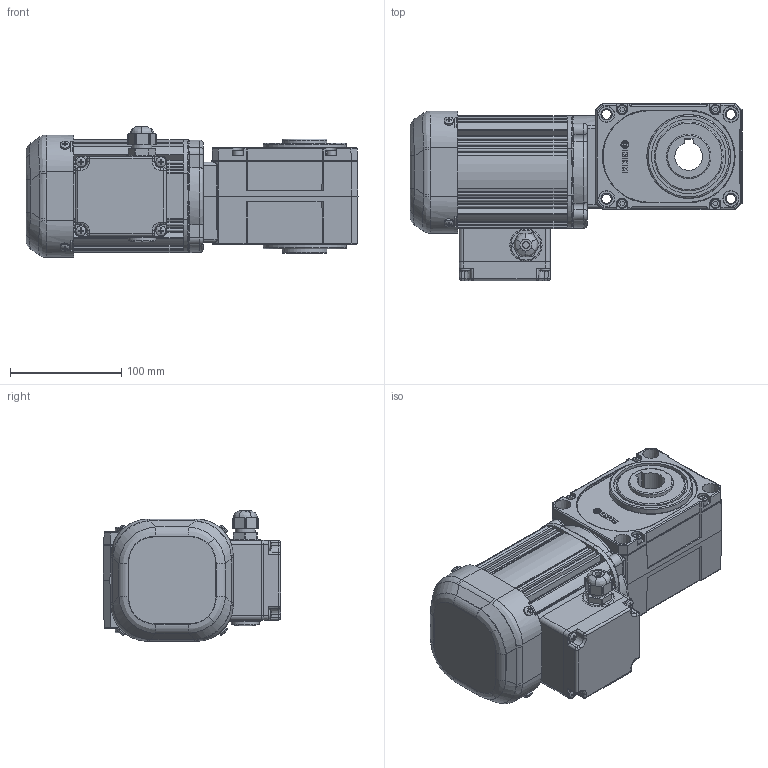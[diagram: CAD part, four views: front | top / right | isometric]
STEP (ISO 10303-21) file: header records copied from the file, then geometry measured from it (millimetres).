
FILE_DESCRIPTION (( 'STEP AP214' ), '1' );
FILE_NAME ('DSY25B-(40~60)N020-¤±.STEP', '2025-01-17T05:34:41', ( '' ), ( '' ), 'SwSTEP 2.0', 'SolidWorks 2024', '' );
FILE_SCHEMA (( 'AUTOMOTIVE_DESIGN' ));
Length unit declared in the file: millimetre
Products named in the file (14): DSY02L 감속기; DKM 단자대 상부수정도(20200120); 95 인발프레임 최종가공도(20200128); DSY25B-(40~60)N020-ㅁ; CASE-DSY02L-DC; 단자박스 마개; COVER-DSY02L-DC; DKM 0.2kW 뒤커버 가공도(20200128); 단자박스 ASS''Y; 단자박스 하 수정; 0.2KW 모터; dkm 0.2kW 팬커버; 프렉시블_표준; 고무패킹-하
Assembly tree (13 placements, depth 3):
  DSY25B-(40~60)N020-ㅁ
    단자박스 ASS''Y
      단자박스 하 수정
      프렉시블_표준
      단자박스 마개
      DKM 단자대 상부수정도(20200120)
      고무패킹-하
    DSY02L 감속기
      CASE-DSY02L-DC
      COVER-DSY02L-DC
    0.2KW 모터
      95 인발프레임 최종가공도(20200128)
      DKM 0.2kW 뒤커버 가공도(20200128)
      dkm 0.2kW 팬커버
Bounding box: 299 x 159.75 x 117.56 mm (x, y, z)
Volume: 2468226.2 mm3; surface area: 340473.7 mm2
Topology: 10 solids, 11 shells, 1475 faces, 3749 edges, 2344 vertices
Faces by surface type: plane 663, cylinder 484, bspline 222, torus 75, cone 27, sphere 4
Full cylindrical faces by diameter (mm): 2.514 x2, 3.318 x2, 3.5 x4, 4.5 x4, 5 x8, 5.3 x8, 6 x1, 8.5 x12, 9 x4, 10 x8, 10.8 x1, 14 x4, 16.5 x1, 18 x2, 19 x1, 20 x3, 22 x1, 25 x1, 28 x1, 40 x3, 62 x2, 67 x2
Entity records: 52214 total; most frequent: CARTESIAN_POINT 18304, ORIENTED_EDGE 7108, DIRECTION 6594, EDGE_CURVE 3554, AXIS2_PLACEMENT_3D 2334, VERTEX_POINT 2308, VECTOR 1926, LINE 1926
